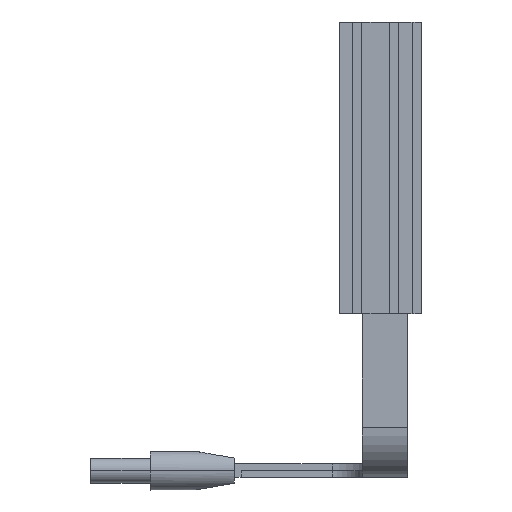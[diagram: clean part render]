
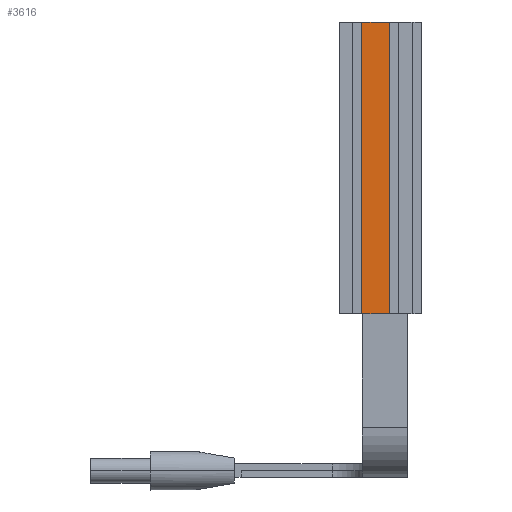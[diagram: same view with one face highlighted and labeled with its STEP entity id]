
A CAD part, left-side view. The second image highlights one B-rep face of the part: STEP entity #3616.
In plain terms, the highlighted planar face has unit normal (-1, 0, 0).
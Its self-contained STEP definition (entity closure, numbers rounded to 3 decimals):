
#212 = EDGE_CURVE ( 'NONE', #597, #712, #4131, .T. ) ;
#263 = EDGE_CURVE ( 'NONE', #597, #814, #4223, .T. ) ;
#318 = EDGE_CURVE ( 'NONE', #814, #812, #4497, .T. ) ;
#371 = EDGE_CURVE ( 'NONE', #712, #812, #4586, .T. ) ;
#567 = AXIS2_PLACEMENT_3D ( 'NONE', #1285, #1278, #1277 ) ;
#597 = VERTEX_POINT ( 'NONE', #2493 ) ;
#712 = VERTEX_POINT ( 'NONE', #3277 ) ;
#812 = VERTEX_POINT ( 'NONE', #2799 ) ;
#814 = VERTEX_POINT ( 'NONE', #2797 ) ;
#1277 = DIRECTION ( 'NONE',  ( 0., 1., 0. ) ) ;
#1278 = DIRECTION ( 'NONE',  ( 1., 0., 0. ) ) ;
#1285 = CARTESIAN_POINT ( 'NONE',  ( -88., 10., 32. ) ) ;
#1286 = PLANE ( 'NONE',  #567 ) ;
#1375 = DIRECTION ( 'NONE',  ( 0., 0., -1. ) ) ;
#1377 = CARTESIAN_POINT ( 'NONE',  ( -88., 10., 32. ) ) ;
#1533 = DIRECTION ( 'NONE',  ( 0., -1., 0. ) ) ;
#1534 = CARTESIAN_POINT ( 'NONE',  ( -88., 10., 32. ) ) ;
#2362 = ORIENTED_EDGE ( 'NONE', *, *, #318, .T. ) ;
#2363 = ORIENTED_EDGE ( 'NONE', *, *, #371, .F. ) ;
#2364 = ORIENTED_EDGE ( 'NONE', *, *, #212, .F. ) ;
#2365 = ORIENTED_EDGE ( 'NONE', *, *, #263, .T. ) ;
#2493 = CARTESIAN_POINT ( 'NONE',  ( -88., 10., 32. ) ) ;
#2797 = CARTESIAN_POINT ( 'NONE',  ( -88., 10., -32. ) ) ;
#2799 = CARTESIAN_POINT ( 'NONE',  ( -88., 4., -32. ) ) ;
#2918 = EDGE_LOOP ( 'NONE', ( #2362, #2363, #2364, #2365 ) ) ;
#3277 = CARTESIAN_POINT ( 'NONE',  ( -88., 4., 32. ) ) ;
#3435 = DIRECTION ( 'NONE',  ( 0., -1., 0. ) ) ;
#3436 = CARTESIAN_POINT ( 'NONE',  ( -88., 10., -32. ) ) ;
#3616 = ADVANCED_FACE ( 'NONE', ( #4798 ), #1286, .F. ) ;
#4131 = LINE ( 'NONE', #1534, #4132 ) ;
#4132 = VECTOR ( 'NONE', #1533, 1000. ) ;
#4223 = LINE ( 'NONE', #1377, #4224 ) ;
#4224 = VECTOR ( 'NONE', #1375, 1000. ) ;
#4392 = DIRECTION ( 'NONE',  ( 0., 0., -1. ) ) ;
#4399 = CARTESIAN_POINT ( 'NONE',  ( -88., 4., 32. ) ) ;
#4497 = LINE ( 'NONE', #3436, #4498 ) ;
#4498 = VECTOR ( 'NONE', #3435, 1000. ) ;
#4583 = VECTOR ( 'NONE', #4392, 1000. ) ;
#4586 = LINE ( 'NONE', #4399, #4583 ) ;
#4798 = FACE_OUTER_BOUND ( 'NONE', #2918, .T. ) ;
